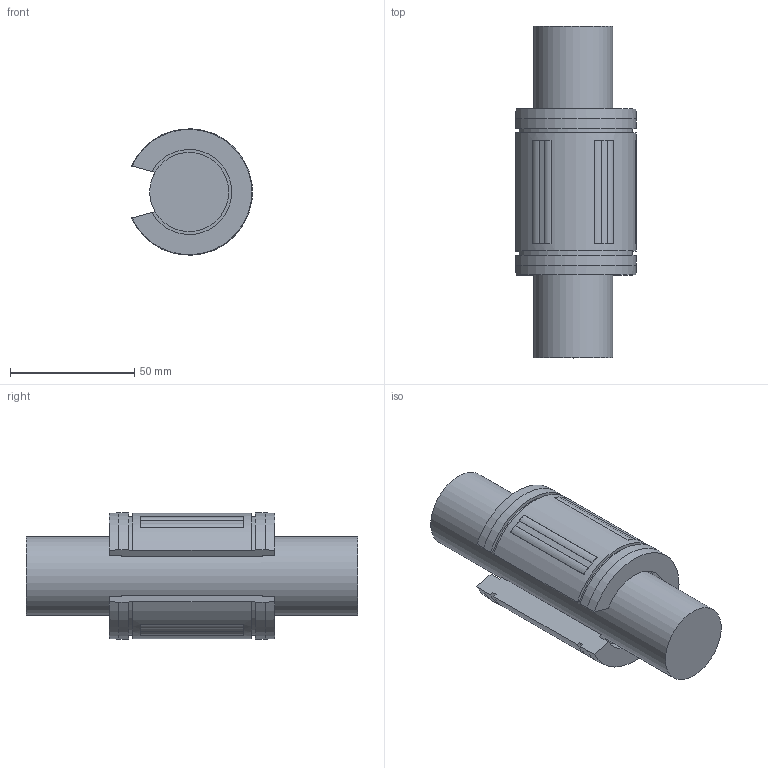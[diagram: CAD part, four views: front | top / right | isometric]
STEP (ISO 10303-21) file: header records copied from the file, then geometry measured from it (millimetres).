
FILE_DESCRIPTION((''),'2;1');
FILE_NAME('D:\STEP\SUPER\LMBS OP\LMBS20_OP.stp','2013-02-14T08:07:05',('user2'),(''),'Autodesk Inventor 2012','Autodesk Inventor 2012','');
FILE_SCHEMA(('AUTOMOTIVE_DESIGN { 1 0 10303 214 1 1 1 1 }'));
Length unit declared in the file: millimetre
Products named in the file (1): LMBS20_OP
Bounding box: 48.54 x 133.36 x 50.75 mm (x, y, z)
Volume: 173410.8 mm3; surface area: 24422.3 mm2
Topology: 1 solids, 1 shells, 107 faces, 259 edges, 159 vertices
Faces by surface type: plane 87, cylinder 18, cone 2
Full cylindrical faces by diameter (mm): 31.75 x1
Entity records: 3162 total; most frequent: DIRECTION 598, CARTESIAN_POINT 530, ORIENTED_EDGE 512, EDGE_CURVE 256, AXIS2_PLACEMENT_3D 238, VERTEX_POINT 158, CIRCLE 130, VECTOR 122
